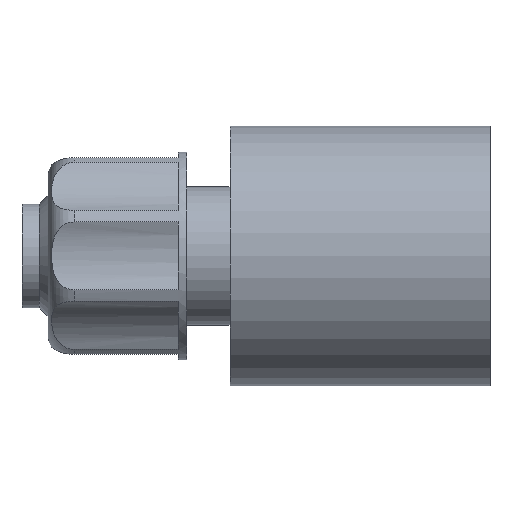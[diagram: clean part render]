
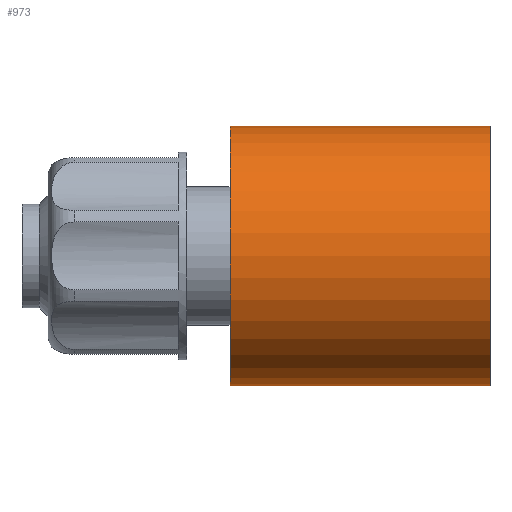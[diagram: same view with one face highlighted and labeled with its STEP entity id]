
A CAD part, top view. The second image highlights one B-rep face of the part: STEP entity #973.
In plain terms, the highlighted cylindrical face has radius 7.5 mm (diameter 15 mm), a partial arc.
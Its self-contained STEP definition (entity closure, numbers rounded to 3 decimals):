
#97=CARTESIAN_POINT('',(12.5,0.,0.));
#98=DIRECTION('',(1.,0.,0.));
#99=DIRECTION('',(0.,1.,0.));
#100=AXIS2_PLACEMENT_3D('',#97,#98,#99);
#102=DIRECTION('',(-1.,0.,0.));
#103=VECTOR('',#102,15.);
#104=CARTESIAN_POINT('',(12.5,7.5,0.));
#105=LINE('',#104,#103);
#106=DIRECTION('',(-1.,0.,0.));
#107=VECTOR('',#106,15.);
#108=CARTESIAN_POINT('',(12.5,-7.5,0.));
#109=LINE('',#108,#107);
#120=CARTESIAN_POINT('',(-2.5,0.,0.));
#121=DIRECTION('',(1.,0.,0.));
#122=DIRECTION('',(0.,1.,0.));
#123=AXIS2_PLACEMENT_3D('',#120,#121,#122);
#709=CARTESIAN_POINT('',(12.5,7.5,0.));
#710=CARTESIAN_POINT('',(-2.5,7.5,0.));
#711=VERTEX_POINT('',#709);
#712=VERTEX_POINT('',#710);
#733=CARTESIAN_POINT('',(12.5,-7.5,0.));
#734=CARTESIAN_POINT('',(-2.5,-7.5,0.));
#735=VERTEX_POINT('',#733);
#736=VERTEX_POINT('',#734);
#959=CARTESIAN_POINT('',(-15.85,0.,0.));
#960=DIRECTION('',(1.,0.,0.));
#961=DIRECTION('',(0.,-1.,0.));
#962=AXIS2_PLACEMENT_3D('',#959,#960,#961);
#963=CYLINDRICAL_SURFACE('',#962,7.5);
#965=ORIENTED_EDGE('',*,*,#964,.F.);
#966=ORIENTED_EDGE('',*,*,#948,.T.);
#968=ORIENTED_EDGE('',*,*,#967,.T.);
#970=ORIENTED_EDGE('',*,*,#969,.F.);
#971=EDGE_LOOP('',(#965,#966,#968,#970));
#972=FACE_OUTER_BOUND('',#971,.F.);
#973=ADVANCED_FACE('',(#972),#963,.T.);
#101=CIRCLE('',#100,7.5);
#124=CIRCLE('',#123,7.5);
#948=EDGE_CURVE('',#711,#735,#101,.T.);
#964=EDGE_CURVE('',#711,#712,#105,.T.);
#967=EDGE_CURVE('',#735,#736,#109,.T.);
#969=EDGE_CURVE('',#712,#736,#124,.T.);
